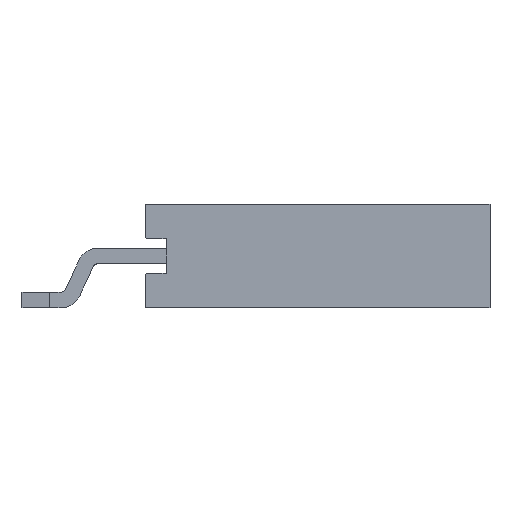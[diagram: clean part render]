
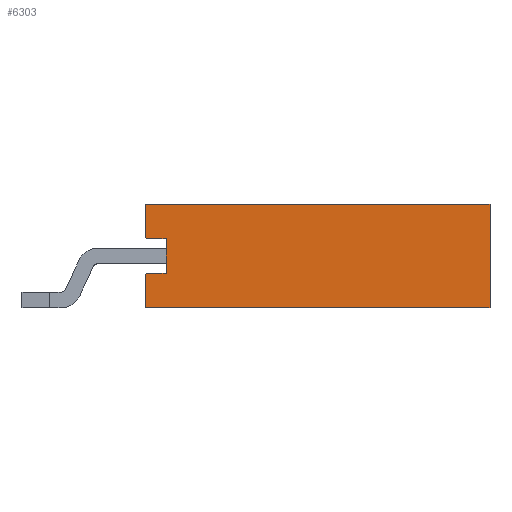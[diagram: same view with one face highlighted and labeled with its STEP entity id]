
A CAD part, front view. The second image highlights one B-rep face of the part: STEP entity #6303.
In plain terms, the highlighted planar face has unit normal (0, -1, 0).
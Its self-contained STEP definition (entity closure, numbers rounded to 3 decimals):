
#6087 = VERTEX_POINT('',#6088);
#6088 = CARTESIAN_POINT('',(11.45,-1.47,0.));
#6094 = EDGE_CURVE('',#6087,#6095,#6097,.T.);
#6095 = VERTEX_POINT('',#6096);
#6096 = CARTESIAN_POINT('',(11.45,-1.47,2.65));
#6097 = LINE('',#6098,#6099);
#6098 = CARTESIAN_POINT('',(11.45,-1.47,0.));
#6099 = VECTOR('',#6100,1.);
#6100 = DIRECTION('',(0.,0.,1.));
#6223 = VERTEX_POINT('',#6224);
#6224 = CARTESIAN_POINT('',(2.65,-1.47,0.));
#6230 = EDGE_CURVE('',#6223,#6087,#6231,.T.);
#6231 = LINE('',#6232,#6233);
#6232 = CARTESIAN_POINT('',(2.65,-1.47,0.));
#6233 = VECTOR('',#6234,1.);
#6234 = DIRECTION('',(1.,0.,0.));
#6303 = ADVANCED_FACE('',(#6304),#6354,.F.);
#6304 = FACE_BOUND('',#6305,.F.);
#6305 = EDGE_LOOP('',(#6306,#6316,#6322,#6323,#6324,#6332,#6340,#6348));
#6306 = ORIENTED_EDGE('',*,*,#6307,.F.);
#6307 = EDGE_CURVE('',#6308,#6310,#6312,.T.);
#6308 = VERTEX_POINT('',#6309);
#6309 = CARTESIAN_POINT('',(2.65,-1.47,2.65));
#6310 = VERTEX_POINT('',#6311);
#6311 = CARTESIAN_POINT('',(2.65,-1.47,1.785));
#6312 = LINE('',#6313,#6314);
#6313 = CARTESIAN_POINT('',(2.65,-1.47,2.65));
#6314 = VECTOR('',#6315,1.);
#6315 = DIRECTION('',(0.,0.,-1.));
#6316 = ORIENTED_EDGE('',*,*,#6317,.F.);
#6317 = EDGE_CURVE('',#6095,#6308,#6318,.T.);
#6318 = LINE('',#6319,#6320);
#6319 = CARTESIAN_POINT('',(11.45,-1.47,2.65));
#6320 = VECTOR('',#6321,1.);
#6321 = DIRECTION('',(-1.,0.,0.));
#6322 = ORIENTED_EDGE('',*,*,#6094,.F.);
#6323 = ORIENTED_EDGE('',*,*,#6230,.F.);
#6324 = ORIENTED_EDGE('',*,*,#6325,.F.);
#6325 = EDGE_CURVE('',#6326,#6223,#6328,.T.);
#6326 = VERTEX_POINT('',#6327);
#6327 = CARTESIAN_POINT('',(2.65,-1.47,0.865));
#6328 = LINE('',#6329,#6330);
#6329 = CARTESIAN_POINT('',(2.65,-1.47,2.65));
#6330 = VECTOR('',#6331,1.);
#6331 = DIRECTION('',(0.,0.,-1.));
#6332 = ORIENTED_EDGE('',*,*,#6333,.T.);
#6333 = EDGE_CURVE('',#6326,#6334,#6336,.T.);
#6334 = VERTEX_POINT('',#6335);
#6335 = CARTESIAN_POINT('',(3.18,-1.47,0.883));
#6336 = LINE('',#6337,#6338);
#6337 = CARTESIAN_POINT('',(4.855,-1.47,0.942));
#6338 = VECTOR('',#6339,1.);
#6339 = DIRECTION('',(0.999,0.,0.035
    ));
#6340 = ORIENTED_EDGE('',*,*,#6341,.T.);
#6341 = EDGE_CURVE('',#6334,#6342,#6344,.T.);
#6342 = VERTEX_POINT('',#6343);
#6343 = CARTESIAN_POINT('',(3.18,-1.47,1.767));
#6344 = LINE('',#6345,#6346);
#6345 = CARTESIAN_POINT('',(3.18,-1.47,1.104));
#6346 = VECTOR('',#6347,1.);
#6347 = DIRECTION('',(0.,0.,1.));
#6348 = ORIENTED_EDGE('',*,*,#6349,.T.);
#6349 = EDGE_CURVE('',#6342,#6310,#6350,.T.);
#6350 = LINE('',#6351,#6352);
#6351 = CARTESIAN_POINT('',(5.12,-1.47,1.699));
#6352 = VECTOR('',#6353,1.);
#6353 = DIRECTION('',(-0.999,0.,
    0.035));
#6354 = PLANE('',#6355);
#6355 = AXIS2_PLACEMENT_3D('',#6356,#6357,#6358);
#6356 = CARTESIAN_POINT('',(7.05,-1.47,1.325));
#6357 = DIRECTION('',(0.,1.,0.));
#6358 = DIRECTION('',(0.,0.,1.));
